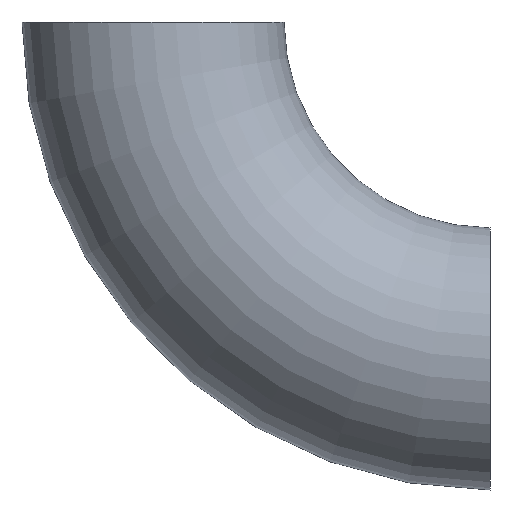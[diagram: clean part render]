
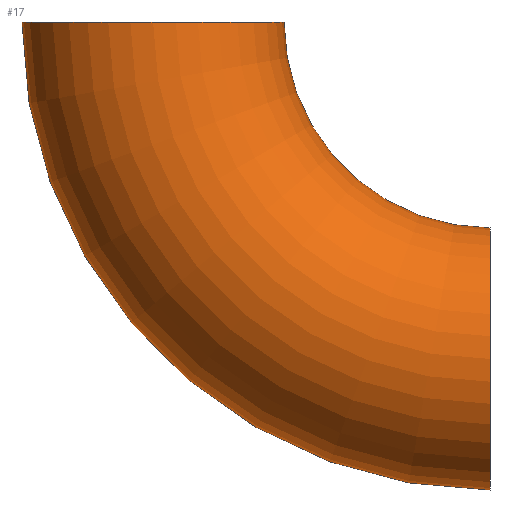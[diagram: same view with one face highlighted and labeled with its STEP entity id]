
A CAD part, front view. The second image highlights one B-rep face of the part: STEP entity #17.
In plain terms, the highlighted toroidal (fillet/blend) face has major radius 114.3 mm and minor radius 44.45 mm.
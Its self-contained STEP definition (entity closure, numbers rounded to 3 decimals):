
#17 = ADVANCED_FACE('',(#18),#33,.T.);
#18 = FACE_BOUND('',#19,.T.);
#19 = EDGE_LOOP('',(#20,#51,#78,#79));
#20 = ORIENTED_EDGE('',*,*,#21,.T.);
#21 = EDGE_CURVE('',#22,#24,#26,.T.);
#22 = VERTEX_POINT('',#23);
#23 = CARTESIAN_POINT('',(44.45,0.,-439.));
#24 = VERTEX_POINT('',#25);
#25 = CARTESIAN_POINT('',(114.3,0.,-508.85));
#26 = SEAM_CURVE('',#27,(#32,#44),.PCURVE_S1.);
#27 = CIRCLE('',#28,69.85);
#28 = AXIS2_PLACEMENT_3D('',#29,#30,#31);
#29 = CARTESIAN_POINT('',(114.3,0.,-439.));
#30 = DIRECTION('',(0.,-1.,0.));
#31 = DIRECTION('',(-1.,0.,0.));
#32 = PCURVE('',#33,#38);
#33 = TOROIDAL_SURFACE('',#34,114.3,44.45);
#34 = AXIS2_PLACEMENT_3D('',#35,#36,#37);
#35 = CARTESIAN_POINT('',(114.3,0.,-439.));
#36 = DIRECTION('',(0.,-1.,0.));
#37 = DIRECTION('',(-1.,0.,0.));
#38 = DEFINITIONAL_REPRESENTATION('',(#39),#43);
#39 = LINE('',#40,#41);
#40 = CARTESIAN_POINT('',(0.,3.142));
#41 = VECTOR('',#42,1.);
#42 = DIRECTION('',(1.,0.));
#43 = ( GEOMETRIC_REPRESENTATION_CONTEXT(2) 
PARAMETRIC_REPRESENTATION_CONTEXT() REPRESENTATION_CONTEXT('2D SPACE',''
  ) );
#44 = PCURVE('',#33,#45);
#45 = DEFINITIONAL_REPRESENTATION('',(#46),#50);
#46 = LINE('',#47,#48);
#47 = CARTESIAN_POINT('',(0.,9.425));
#48 = VECTOR('',#49,1.);
#49 = DIRECTION('',(1.,0.));
#50 = ( GEOMETRIC_REPRESENTATION_CONTEXT(2) 
PARAMETRIC_REPRESENTATION_CONTEXT() REPRESENTATION_CONTEXT('2D SPACE',''
  ) );
#51 = ORIENTED_EDGE('',*,*,#52,.T.);
#52 = EDGE_CURVE('',#24,#24,#53,.T.);
#53 = SURFACE_CURVE('',#54,(#59,#66),.PCURVE_S1.);
#54 = CIRCLE('',#55,44.45);
#55 = AXIS2_PLACEMENT_3D('',#56,#57,#58);
#56 = CARTESIAN_POINT('',(114.3,0.,-553.3));
#57 = DIRECTION('',(-1.,0.,0.));
#58 = DIRECTION('',(0.,0.,1.));
#59 = PCURVE('',#33,#60);
#60 = DEFINITIONAL_REPRESENTATION('',(#61),#65);
#61 = LINE('',#62,#63);
#62 = CARTESIAN_POINT('',(1.571,3.142));
#63 = VECTOR('',#64,1.);
#64 = DIRECTION('',(0.,1.));
#65 = ( GEOMETRIC_REPRESENTATION_CONTEXT(2) 
PARAMETRIC_REPRESENTATION_CONTEXT() REPRESENTATION_CONTEXT('2D SPACE',''
  ) );
#66 = PCURVE('',#67,#72);
#67 = PLANE('',#68);
#68 = AXIS2_PLACEMENT_3D('',#69,#70,#71);
#69 = CARTESIAN_POINT('',(114.3,0.,-553.3));
#70 = DIRECTION('',(-1.,0.,0.));
#71 = DIRECTION('',(0.,0.,1.));
#72 = DEFINITIONAL_REPRESENTATION('',(#73),#77);
#73 = CIRCLE('',#74,44.45);
#74 = AXIS2_PLACEMENT_2D('',#75,#76);
#75 = CARTESIAN_POINT('',(0.,0.));
#76 = DIRECTION('',(1.,0.));
#77 = ( GEOMETRIC_REPRESENTATION_CONTEXT(2) 
PARAMETRIC_REPRESENTATION_CONTEXT() REPRESENTATION_CONTEXT('2D SPACE',''
  ) );
#78 = ORIENTED_EDGE('',*,*,#21,.F.);
#79 = ORIENTED_EDGE('',*,*,#80,.F.);
#80 = EDGE_CURVE('',#22,#22,#81,.T.);
#81 = SURFACE_CURVE('',#82,(#87,#94),.PCURVE_S1.);
#82 = CIRCLE('',#83,44.45);
#83 = AXIS2_PLACEMENT_3D('',#84,#85,#86);
#84 = CARTESIAN_POINT('',(0.,0.,-439.));
#85 = DIRECTION('',(0.,0.,1.));
#86 = DIRECTION('',(1.,0.,0.));
#87 = PCURVE('',#33,#88);
#88 = DEFINITIONAL_REPRESENTATION('',(#89),#93);
#89 = LINE('',#90,#91);
#90 = CARTESIAN_POINT('',(0.,3.142));
#91 = VECTOR('',#92,1.);
#92 = DIRECTION('',(0.,1.));
#93 = ( GEOMETRIC_REPRESENTATION_CONTEXT(2) 
PARAMETRIC_REPRESENTATION_CONTEXT() REPRESENTATION_CONTEXT('2D SPACE',''
  ) );
#94 = PCURVE('',#95,#100);
#95 = PLANE('',#96);
#96 = AXIS2_PLACEMENT_3D('',#97,#98,#99);
#97 = CARTESIAN_POINT('',(0.,0.,-439.)
  );
#98 = DIRECTION('',(0.,0.,1.));
#99 = DIRECTION('',(1.,0.,-0.));
#100 = DEFINITIONAL_REPRESENTATION('',(#101),#105);
#101 = CIRCLE('',#102,44.45);
#102 = AXIS2_PLACEMENT_2D('',#103,#104);
#103 = CARTESIAN_POINT('',(0.,0.));
#104 = DIRECTION('',(1.,0.));
#105 = ( GEOMETRIC_REPRESENTATION_CONTEXT(2) 
PARAMETRIC_REPRESENTATION_CONTEXT() REPRESENTATION_CONTEXT('2D SPACE',''
  ) );
